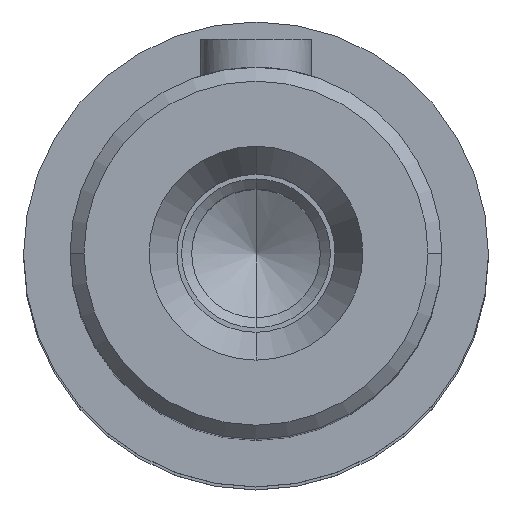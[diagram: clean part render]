
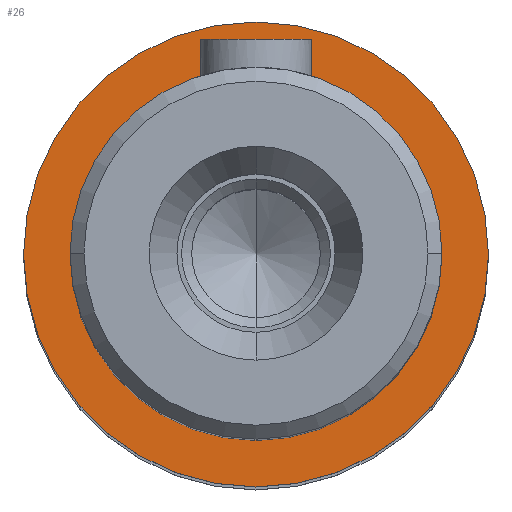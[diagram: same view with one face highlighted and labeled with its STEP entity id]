
A CAD part, top view. The second image highlights one B-rep face of the part: STEP entity #26.
In plain terms, the highlighted planar face has unit normal (0, 0, 1) as drawn and (1, 0, 0) by its records, which use the part's own axes.
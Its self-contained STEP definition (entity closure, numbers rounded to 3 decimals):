
#26=ADVANCED_FACE('',(#88,#75),#761,.T.);
#75=FACE_BOUND('',#146,.T.);
#88=FACE_OUTER_BOUND('',#145,.T.);
#145=EDGE_LOOP('',(#234,#235));
#146=EDGE_LOOP('',(#236,#237));
#234=ORIENTED_EDGE('',*,*,#488,.F.);
#235=ORIENTED_EDGE('',*,*,#427,.F.);
#236=ORIENTED_EDGE('',*,*,#480,.F.);
#237=ORIENTED_EDGE('',*,*,#419,.F.);
#419=EDGE_CURVE('',#686,#722,#571,.T.);
#427=EDGE_CURVE('',#692,#728,#576,.T.);
#480=EDGE_CURVE('',#722,#686,#602,.T.);
#488=EDGE_CURVE('',#728,#692,#607,.T.);
#571=TRIMMED_CURVE($,#624,(#1530),(#1531),.T.,.CARTESIAN.);
#576=TRIMMED_CURVE($,#629,(#1551),(#1552),.T.,.CARTESIAN.);
#602=TRIMMED_CURVE($,#655,(#1683),(#1684),.T.,.CARTESIAN.);
#607=TRIMMED_CURVE($,#660,(#1704),(#1705),.T.,.CARTESIAN.);
#624=CIRCLE('',#1009,20.);
#629=CIRCLE('',#1014,25.);
#655=CIRCLE('',#1040,20.);
#660=CIRCLE('',#1045,25.);
#686=VERTEX_POINT('',#1421);
#692=VERTEX_POINT('',#1427);
#722=VERTEX_POINT('',#1457);
#728=VERTEX_POINT('',#1463);
#761=PLANE('',#979);
#979=AXIS2_PLACEMENT_3D('',#1222,#1074,$);
#1009=AXIS2_PLACEMENT_3D($,#1529,#1106,#1107);
#1014=AXIS2_PLACEMENT_3D($,#1550,#1116,#1117);
#1040=AXIS2_PLACEMENT_3D($,#1682,#1168,#1169);
#1045=AXIS2_PLACEMENT_3D($,#1703,#1178,#1179);
#1074=DIRECTION('',(1.,0.,0.));
#1106=DIRECTION('',(1.,0.,0.));
#1107=DIRECTION('',(0.,0.,-1.));
#1116=DIRECTION('',(-1.,0.,0.));
#1117=DIRECTION('',(0.,0.,-1.));
#1168=DIRECTION('',(1.,0.,0.));
#1169=DIRECTION('',(0.,0.,1.));
#1178=DIRECTION('',(-1.,0.,0.));
#1179=DIRECTION('',(0.,0.,1.));
#1222=CARTESIAN_POINT('',(94.25,-30.06,-30.06));
#1421=CARTESIAN_POINT('',(94.25,0.,-20.));
#1427=CARTESIAN_POINT('',(94.25,0.,-25.));
#1457=CARTESIAN_POINT('',(94.25,0.,20.));
#1463=CARTESIAN_POINT('',(94.25,0.,25.));
#1529=CARTESIAN_POINT('',(94.25,0.,0.));
#1530=CARTESIAN_POINT('',(94.25,0.,-20.));
#1531=CARTESIAN_POINT('',(94.25,0.,20.));
#1550=CARTESIAN_POINT('',(94.25,0.,0.));
#1551=CARTESIAN_POINT('',(94.25,0.,-25.));
#1552=CARTESIAN_POINT('',(94.25,0.,25.));
#1682=CARTESIAN_POINT('',(94.25,0.,0.));
#1683=CARTESIAN_POINT('',(94.25,0.,20.));
#1684=CARTESIAN_POINT('',(94.25,0.,-20.));
#1703=CARTESIAN_POINT('',(94.25,0.,0.));
#1704=CARTESIAN_POINT('',(94.25,0.,25.));
#1705=CARTESIAN_POINT('',(94.25,0.,-25.));
